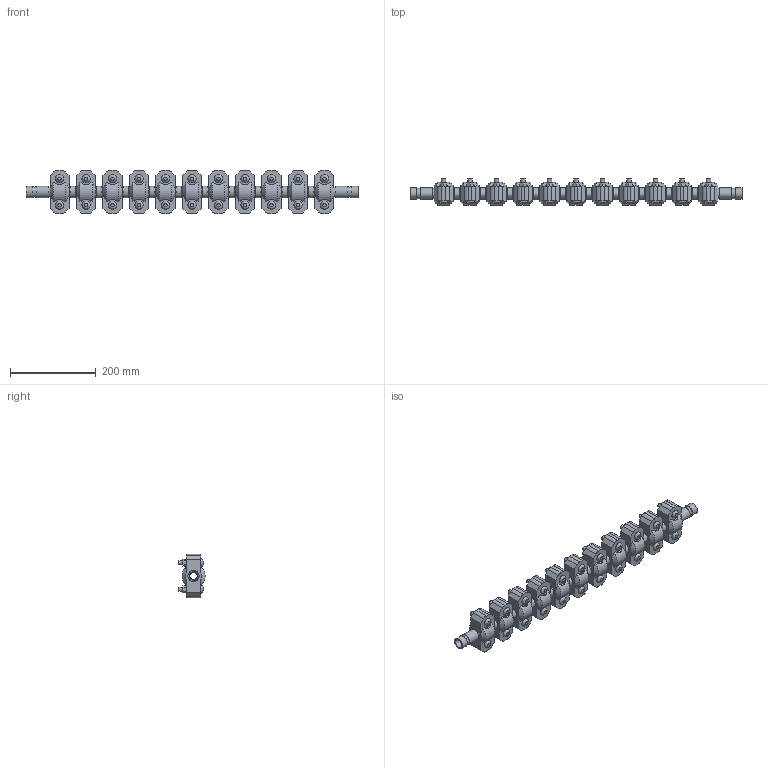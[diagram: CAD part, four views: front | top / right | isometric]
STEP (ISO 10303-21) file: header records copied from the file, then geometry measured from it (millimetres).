
FILE_DESCRIPTION(/* description */ ('VIC EXPANSION JOINT 11 COUPLINGS EXPANDED STYLE 155 (OGS)','CAx-IF Rec.Pracs.---Representation and Presentation of Product Manufacturing Information (PMI)---4.0---2014-10-13'),/* implementation_level */ '2;1');
FILE_NAME(/* name */ 'C:\Users\kkamble\AppData\Roaming\Autodesk\ApplicationPlugins\Victaulic.Temp\A474\Victaulic_IPS_Expansion Joint_Expanded_11 Couplings_Style 155 (OGS)_0.75 (20).stp',/* time_stamp */ '2021-06-26T23:51:24+02:00',/* author */ ('kkamble'),/* organization */ ('Victaulic'),/* preprocessor_version */ 'ST-DEVELOPER v17.2',/* originating_system */ 'Autodesk Inventor 2019',/* authorisation */ '');
FILE_SCHEMA (('AP242_MANAGED_MODEL_BASED_3D_ENGINEERING_MIM_LF { 1 0 10303 442 1 1 4 }'));
Length unit declared in the file: inch
Products named in the file (4): 155-0.75; Nipple-0.75; Nipple-0.75_1; 077-0.75
Assembly tree (23 placements, depth 2):
  155-0.75
    Nipple-0.75  x2
    Nipple-0.75_1  x10
    077-0.75  x11
Bounding box: 776.48 x 61.1 x 101.6 mm (x, y, z)
Volume: 1695792.1 mm3; surface area: 427284.4 mm2
Topology: 23 solids, 45 shells, 815 faces, 1955 edges, 1366 vertices
Faces by surface type: plane 468, cylinder 281, cone 44, bspline 22
Full cylindrical faces by diameter (mm): 9.525 x44, 11.43 x22, 17.78 x11, 20.93 x12, 23.825 x24, 26.67 x58
Entity records: 3097 total; most frequent: CARTESIAN_POINT 599, DIRECTION 509, ORIENTED_EDGE 410, AXIS2_PLACEMENT_3D 206, EDGE_CURVE 205, VERTEX_POINT 146, EDGE_LOOP 111, LINE 97
